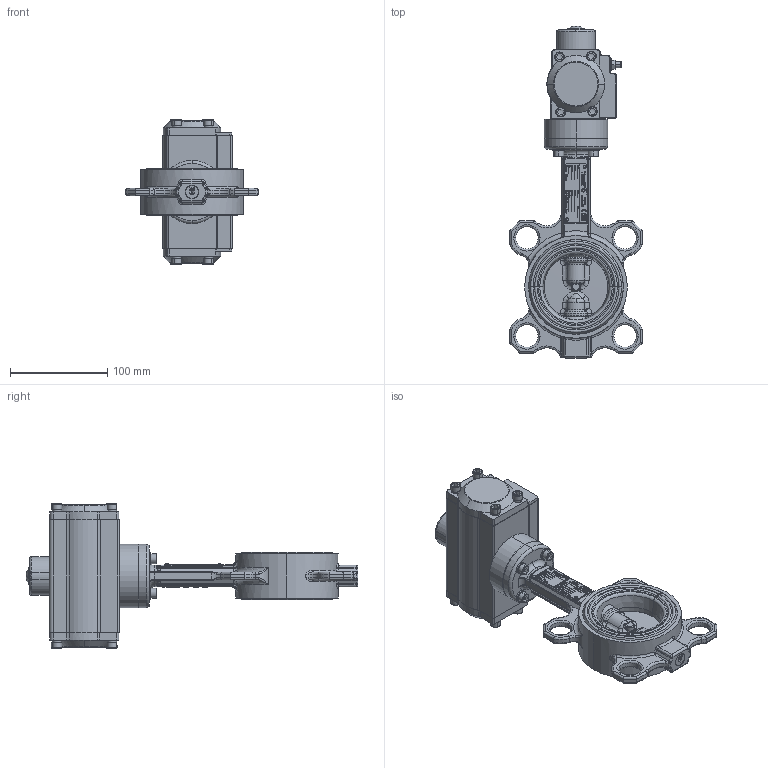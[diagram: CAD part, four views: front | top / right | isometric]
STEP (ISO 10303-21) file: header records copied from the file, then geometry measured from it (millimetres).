
FILE_DESCRIPTION (( 'STEP AP203' ), '1' );
FILE_NAME ('VPN-03 DN65.STEP', '2014-06-20T07:42:18', ( 'FAREX' ), ( '' ), 'SwSTEP 2.0', 'SolidWorks 2011', '' );
FILE_SCHEMA (( 'CONFIG_CONTROL_DESIGN' ));
Products named in the file (1): VPN-03 DN65
Bounding box: 136 x 341.22 x 148.56 mm (x, y, z)
Volume: 846233.8 mm3; surface area: 284753.3 mm2
Topology: 69 solids, 69 shells, 4866 faces, 12022 edges, 7706 vertices
Faces by surface type: bspline 1732, plane 1727, cylinder 823, cone 342, torus 210, sphere 32
Entity records: 212406 total; most frequent: CARTESIAN_POINT 108856, ORIENTED_EDGE 23914, DIRECTION 16508, EDGE_CURVE 11957, VERTEX_POINT 7706, AXIS2_PLACEMENT_3D 5537, EDGE_LOOP 5491, LINE 5434
